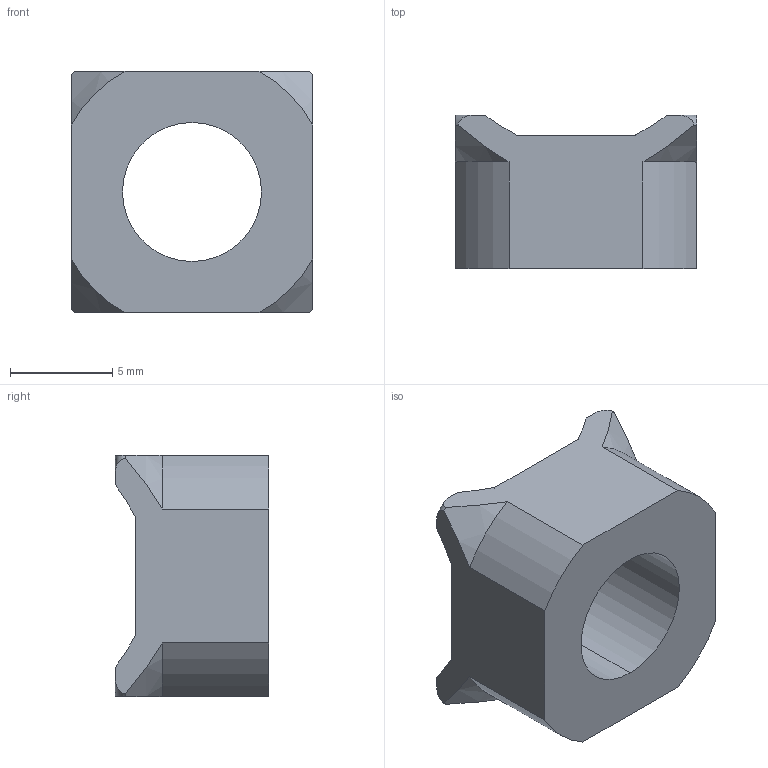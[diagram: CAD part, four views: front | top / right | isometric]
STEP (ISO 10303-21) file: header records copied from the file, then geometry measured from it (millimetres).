
FILE_DESCRIPTION (( 'STEP AP203' ), '1' );
FILE_NAME ('SN8-84040.STEP', '2018-03-15T12:22:20', ( '' ), ( '' ), 'SwSTEP 2.0', 'SolidWorks 2013', '' );
FILE_SCHEMA (( 'CONFIG_CONTROL_DESIGN' ));
Length unit declared in the file: millimetre
Products named in the file (1): SN8-84040
Bounding box: 11.8 x 7.5 x 11.8 mm (x, y, z)
Volume: 612.2 mm3; surface area: 630.5 mm2
Topology: 1 solids, 1 shells, 28 faces, 78 edges, 52 vertices
Faces by surface type: plane 10, cone 8, cylinder 6, torus 4
Entity records: 1079 total; most frequent: CARTESIAN_POINT 295, ORIENTED_EDGE 156, DIRECTION 140, EDGE_CURVE 78, AXIS2_PLACEMENT_3D 57, VERTEX_POINT 52, EDGE_LOOP 30, ADVANCED_FACE 28
